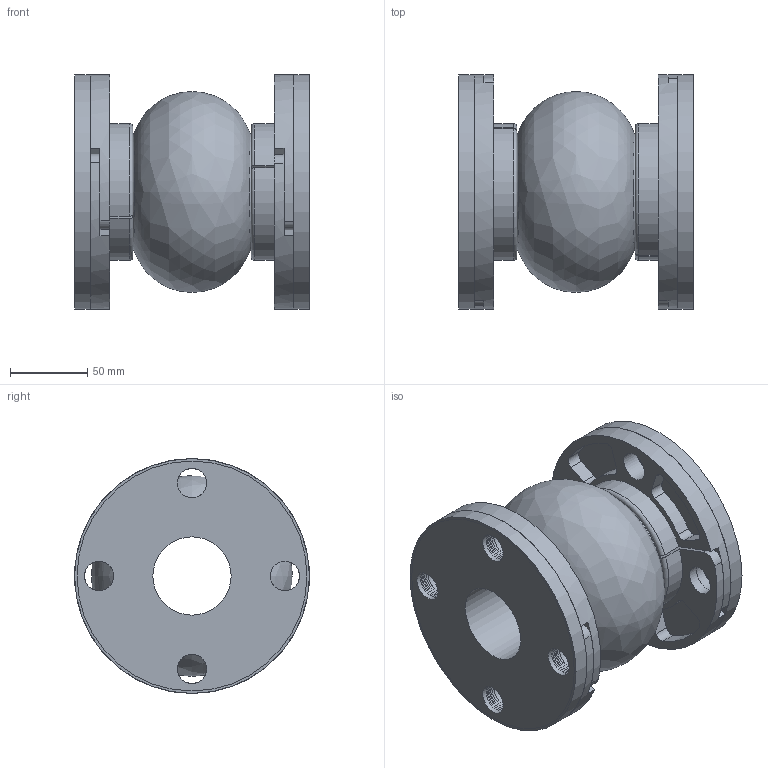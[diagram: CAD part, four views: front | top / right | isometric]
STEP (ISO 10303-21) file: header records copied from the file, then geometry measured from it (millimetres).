
FILE_DESCRIPTION((''),'2;1');
FILE_NAME('C:\2011_Work\Designs\Mercer\Stock Joints\450 Style\451\STEP\451 2x6 .stp','2013-05-15T12:15:35',('mquog'),(''),'Autodesk Inventor 2011','Autodesk Inventor 2011','');
FILE_SCHEMA(('AUTOMOTIVE_DESIGN { 1 0 10303 214 1 1 1 1 }'));
Length unit declared in the file: inch
Products named in the file (3): 451 2x6 ; Style451 2x6; 2DI450BUR150
Assembly tree (5 placements, depth 2):
  451 2x6 
    Style451 2x6
    2DI450BUR150  x4
Bounding box: 152.4 x 152.4 x 152.4 mm (x, y, z)
Volume: 1237079.9 mm3; surface area: 1243711.5 mm2
Topology: 17 solids, 17 shells, 336 faces, 849 edges, 564 vertices
Faces by surface type: cylinder 190, plane 95, torus 34, bspline 17
Full cylindrical faces by diameter (mm): 19.05 x68, 50.8 x2, 57.15 x6, 63.5 x8, 65.532 x4, 67.564 x4, 69.596 x4, 71.628 x4, 74.803 x2, 82.55 x2, 149.225 x16, 152.4 x2
Entity records: 7147 total; most frequent: CARTESIAN_POINT 2143, DIRECTION 1061, ORIENTED_EDGE 680, EDGE_LOOP 536, AXIS2_PLACEMENT_3D 507, EDGE_CURVE 340, FACE_BOUND 311, VERTEX_POINT 310
